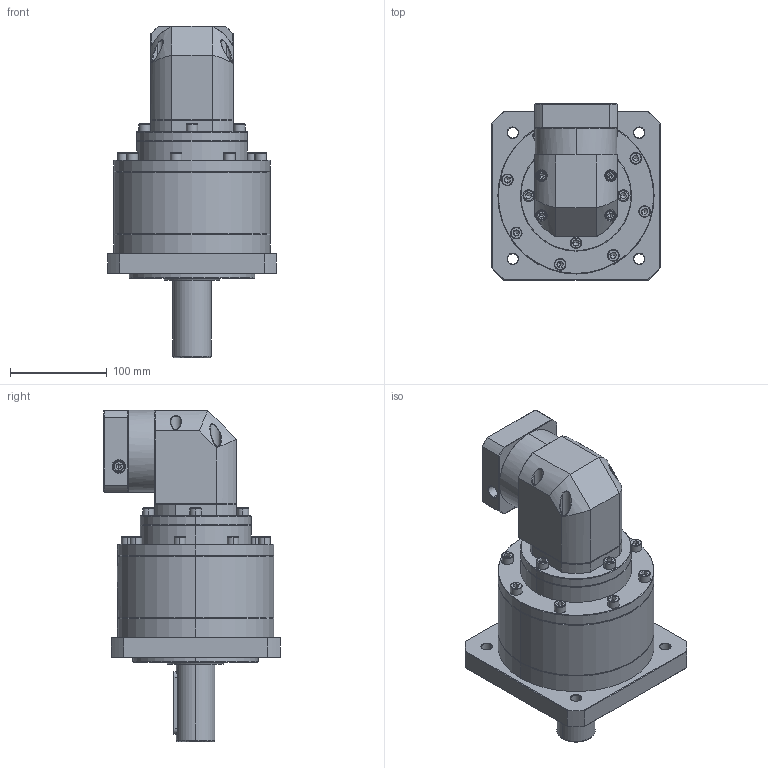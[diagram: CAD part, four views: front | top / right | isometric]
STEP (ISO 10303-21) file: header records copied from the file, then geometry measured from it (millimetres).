
FILE_DESCRIPTION (( 'STEP AP214' ), '1' );
FILE_NAME ('ZFR160A-D40-L3-P2-19-70-90-M6.step', '2023-09-03T10:05:25', ( '' ), ( '' ), 'SwSTEP 2.0', 'SolidWorks 2016', '' );
FILE_SCHEMA (( 'AUTOMOTIVE_DESIGN' ));
Length unit declared in the file: millimetre
Products named in the file (1): ZFR160A-D40-L3-P2-19-70-90-M6
Bounding box: 175 x 182.6 x 343.2 mm (x, y, z)
Volume: 3985116.5 mm3; surface area: 270734.4 mm2
Topology: 6 solids, 6 shells, 2601 faces, 6773 edges, 4300 vertices
Faces by surface type: plane 1240, cylinder 518, bspline 421, cone 362, torus 60
Entity records: 138867 total; most frequent: CARTESIAN_POINT 51934, ORIENTED_EDGE 13406, DIRECTION 10363, EDGE_CURVE 6703, VERTEX_POINT 4300, VECTOR 3621, LINE 3621, AXIS2_PLACEMENT_3D 3371
